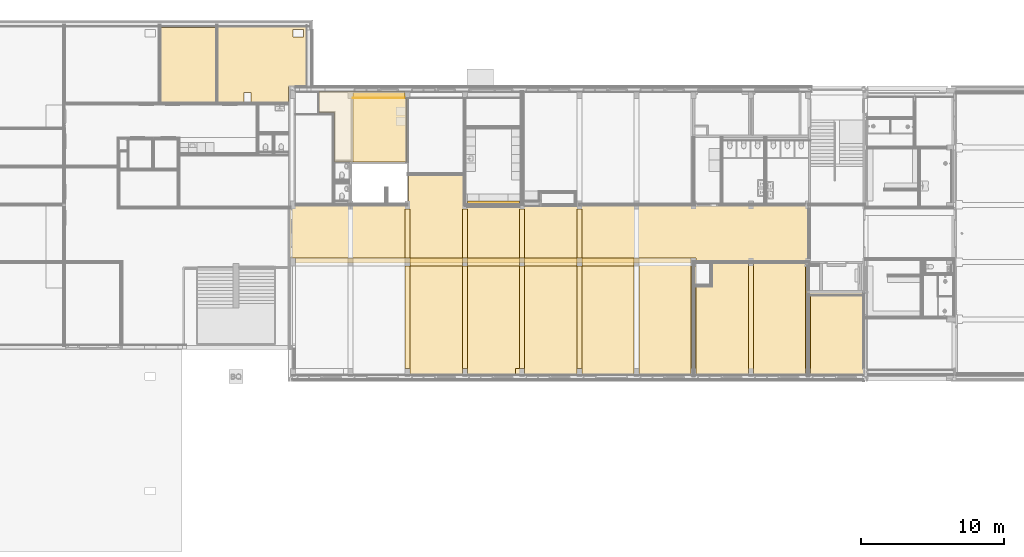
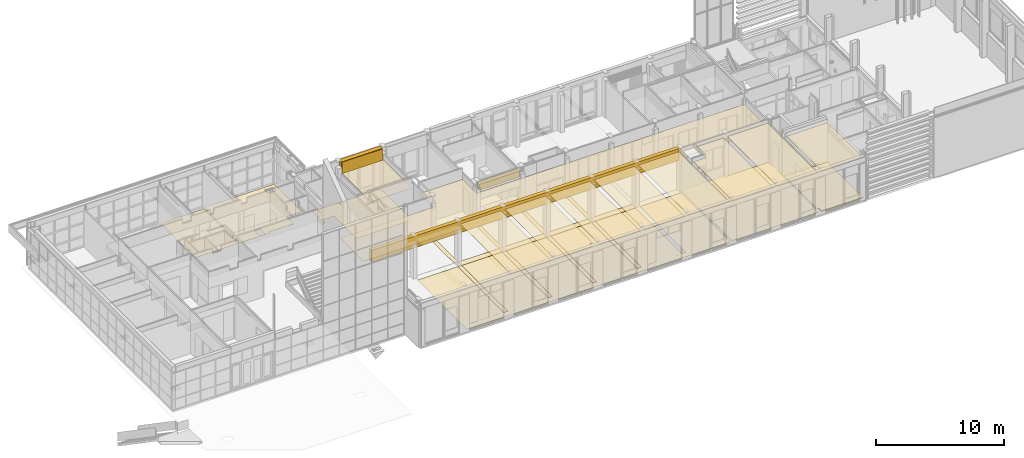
# One storey, part 87 of 109: 33 coverings, 1 opening.
"""IFC2X3 building model written with IfcOpenShell, lengths in millimetres."""

from ifc_helpers import new_model, entity, si_unit, converted_unit, derived_unit, money_unit, direction, frame, origin_with_axes, place, context, subcontext, project, spatial, faceted_brep, material, type_object, element, save


model = new_model("IFC2X3")

# Units and contexts
model_context = context("Model", 3, precision=0.01, world=origin_with_axes(), true_north=direction((0.0, 1.0)))
body_context = subcontext(model_context, "Body", "Model", "MODEL_VIEW")
ifc_project = project(units=[si_unit("LENGTHUNIT", "METRE", prefix="MILLI"), si_unit("AREAUNIT", "SQUARE_METRE"), si_unit("VOLUMEUNIT", "CUBIC_METRE"), converted_unit("PLANEANGLEUNIT", "DEGREE", entity("IfcPlaneAngleMeasure", 0.0174532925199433), si_unit("PLANEANGLEUNIT", "RADIAN"), dimensions=[0, 0, 0, 0, 0, 0, 0]), money_unit("EUR"), converted_unit("TIMEUNIT", "Year", entity("IfcTimeMeasure", 31557600.0), si_unit("TIMEUNIT", "SECOND"), dimensions=[0, 0, 1, 0, 0, 0, 0]), si_unit("MASSUNIT", "GRAM", prefix="KILO"), si_unit("THERMODYNAMICTEMPERATUREUNIT", "DEGREE_CELSIUS"), si_unit("LUMINOUSINTENSITYUNIT", "LUMEN"), si_unit("ENERGYUNIT", "JOULE", prefix="MEGA"), derived_unit("THERMALCONDUCTANCEUNIT", [(si_unit("POWERUNIT", "WATT"), 1), (si_unit("LENGTHUNIT", "METRE"), -1), (si_unit("THERMODYNAMICTEMPERATUREUNIT", "KELVIN"), -1)]), derived_unit("SPECIFICHEATCAPACITYUNIT", [(si_unit("ENERGYUNIT", "JOULE"), 1), (si_unit("MASSUNIT", "GRAM", prefix="KILO"), -1), (si_unit("THERMODYNAMICTEMPERATUREUNIT", "KELVIN"), -1)]), derived_unit("MASSDENSITYUNIT", [(si_unit("MASSUNIT", "GRAM", prefix="KILO"), 1), (si_unit("VOLUMEUNIT", "CUBIC_METRE"), -1)])], contexts=[model_context])

# Site, building, storey
site_placement = place(None, origin_with_axes())
site = spatial("IfcSite", under=ifc_project, at=site_placement, Name="<site naam>", CompositionType="ELEMENT")
building_placement = place(site_placement, origin_with_axes())
building = spatial("IfcBuilding", under=site, at=building_placement, Name="<Naam gebouw>", CompositionType="ELEMENT")
storey_placement = place(building_placement, origin_with_axes())
storey = spatial("IfcBuildingStorey", under=building, at=storey_placement, Name="00 Begane grond", CompositionType="ELEMENT", Elevation=0.0)

# Coverings
ifc_material_1 = material(Name="systeemplafond 600*600 kleur wit")
covering_type_1 = type_object("IfcCoveringType", Name="PA-01a 40", PredefinedType="CEILING")
covering_1_placement = place(storey_placement, frame((40175.00000000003, 100.9771509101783, 3700.0), z_axis=(0.0, 0.0, 1.0), x_axis=(1.0, 0.0, 0.0)))
element("IfcCovering", 1, at=covering_1_placement, inside=storey, type_object=covering_type_1, material=ifc_material_1, Name="45_Vloer_PA-01a", PredefinedType="CEILING", context=body_context, shape_type="Brep", body=[
    faceted_brep([(0.0, 6174.022877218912, 40.00000000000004), (0.0, 8.522849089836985, 40.00000000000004), (3649.999990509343, 8.52284908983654, 40.00000000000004), (3649.999990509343, 7824.022931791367, 40.00000000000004), (1133.999884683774, 7824.022931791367, 40.00000000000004), (1133.999884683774, 6174.022877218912, 40.00000000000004), (0.0, 6174.022877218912, 0.0), (0.0, 8.522849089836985, 0.0), (3649.999990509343, 8.52284908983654, 0.0), (3649.999990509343, 7824.022931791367, 0.0), (1133.999884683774, 7824.022931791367, 0.0), (1133.999884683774, 6174.022877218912, 0.0)], [[[0, 1, 2, 3, 4, 5]], [[6, 7, 1, 0]], [[7, 8, 2, 1]], [[3, 2, 8, 9]], [[4, 3, 9, 10]], [[5, 4, 10, 11]], [[0, 5, 11, 6]], [[9, 8, 7, 6, 11, 10]]]),
])
covering_2_placement = place(storey_placement, frame((16175.00000000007, 14985.5355143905, 3000.0), z_axis=(0.0, 0.0, 1.0), x_axis=(1.0, 0.0, 0.0)))
element("IfcCovering", 2, at=covering_2_placement, inside=storey, type_object=covering_type_1, material=ifc_material_1, Name="45_Vloer_PA-01a", PredefinedType="CEILING", context=body_context, shape_type="Brep", body=[
    faceted_brep([(-2.67471023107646e-06, -0.02038554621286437, 40.00000000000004), (3737.499999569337, -0.5108825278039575, 40.00000000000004), (3737.499999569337, 4464.455516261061, 40.00000000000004), (0.585738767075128, 4464.24925357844, 40.00000000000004), (-2.67471023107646e-06, -0.02038554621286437, 0.0), (3737.499999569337, -0.5108825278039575, 0.0), (3737.499999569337, 4464.455516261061, 0.0), (0.585738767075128, 4464.24925357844, 0.0)], [[[0, 1, 2, 3]], [[4, 5, 1, 0]], [[5, 6, 2, 1]], [[3, 2, 6, 7]], [[7, 4, 0, 3]], [[7, 6, 5, 4]]]),
])
covering_3_placement = place(storey_placement, frame((44175.0000465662, 7925.000082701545, 3700.0), z_axis=(0.0, 0.0, 1.0), x_axis=(1.0, 0.0, 0.0)))
element("IfcCovering", 3, at=covering_3_placement, inside=storey, type_object=covering_type_1, material=ifc_material_1, Name="45_Vloer_PA-01a", PredefinedType="CEILING", context=body_context, shape_type="Brep", body=[
    faceted_brep([(0.0, 0.0, 40.00000000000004), (0.0, -7815.50008270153, 40.00000000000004), (3649.999953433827, -7815.50008270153, 40.00000000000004), (3649.999953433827, 0.0, 40.00000000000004), (0.0, 0.0, 0.0), (0.0, -7815.50008270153, 0.0), (3649.999953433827, -7815.50008270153, 0.0), (3649.999953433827, 0.0, 0.0)], [[[0, 1, 2, 3]], [[4, 5, 1, 0]], [[5, 6, 2, 1]], [[3, 2, 6, 7]], [[0, 3, 7, 4]], [[7, 6, 5, 4]]]),
])
ifc_material_2 = material(Name="systeemplafond 600*600")
covering_type_2 = type_object("IfcCoveringType", Name="PA-01c 40", PredefinedType="CEILING")
covering_4_placement = place(storey_placement, frame((11665.00000000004, 8275.000000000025, 3000.0), z_axis=(0.0, 0.0, 1.0), x_axis=(1.0, 0.0, 0.0)))
element("IfcCovering", 4, at=covering_4_placement, inside=storey, type_object=covering_type_2, material=ifc_material_2, Name="45_Vloer_PA-01c", PredefinedType="CEILING", context=body_context, shape_type="Brep", body=[
    faceted_brep([(17647.36879634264, 3627.170365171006, 0.0), (17634.86879634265, 3627.170365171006, 0.0), (17634.86879634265, 3627.170365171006, 40.00000000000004), (17647.36879634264, 3627.170365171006, 40.00000000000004), (16510.0, 3647.072120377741, 0.0), (16510.0, 3627.170365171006, 0.0), (17647.36879634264, 3614.670365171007, 0.0), (17659.86879634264, 3614.670365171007, 0.0), (17659.86879634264, 3627.170365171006, 0.0), (20134.38242510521, 3627.170365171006, 0.0), (20134.38242510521, 3639.670365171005, 0.0), (20034.38242510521, 3639.670365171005, 0.0), (20034.38242510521, 3647.072120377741, 0.0), (28159.86180102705, 3647.072120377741, 0.0), (28159.86180102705, 3653.530128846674, 0.0), (36370.99999999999, 3653.530128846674, 0.0), (36370.99999999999, 3449.999999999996, 0.0), (36347.5, 3449.999999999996, 0.0), (36347.5, 0.0, 0.0), (36370.99999999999, 0.0, 0.0), (36370.99999999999, -200.0000000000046, 0.0), (28510.0, -200.0000000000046, 0.0), (28510.0, 0.0, 0.0), (0.0, 0.0, 0.0), (0.0, 3651.357650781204, 0.0), (8384.999999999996, 3651.357650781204, 0.0), (8384.999999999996, 5803.803606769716, 0.0), (12260.0, 5803.803606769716, 0.0), (12260.0, 3647.072120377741, 0.0), (12334.99999999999, 3647.072120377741, 0.0), (12334.99999999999, 3627.170365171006, 0.0), (16160.0, 3627.170365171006, 0.0), (16160.0, 3647.072120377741, 0.0), (16510.0, 3627.170365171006, 40.00000000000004), (16510.0, 3647.072120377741, 40.00000000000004), (16160.0, 3647.072120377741, 40.00000000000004), (16160.0, 3627.170365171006, 40.00000000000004), (12334.99999999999, 3627.170365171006, 40.00000000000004), (12334.99999999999, 3647.072120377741, 40.00000000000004), (12260.0, 3647.072120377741, 40.00000000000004), (12260.0, 5803.803606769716, 40.00000000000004), (8384.999999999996, 5803.803606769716, 40.00000000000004), (8384.999999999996, 3651.357650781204, 40.00000000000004), (0.0, 3651.357650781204, 40.00000000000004), (0.0, 0.0, 40.00000000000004), (28510.0, 0.0, 40.00000000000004), (28510.0, -200.0000000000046, 40.00000000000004), (36370.99999999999, -200.0000000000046, 40.00000000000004), (36370.99999999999, 0.0, 40.00000000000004), (36347.5, 0.0, 40.00000000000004), (36347.5, 3449.999999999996, 40.00000000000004), (36370.99999999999, 3449.999999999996, 40.00000000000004), (36370.99999999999, 3653.530128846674, 40.00000000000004), (28159.86180102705, 3653.530128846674, 40.00000000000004), (28159.86180102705, 3647.072120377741, 40.00000000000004), (20034.38242510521, 3647.072120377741, 40.00000000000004), (20034.38242510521, 3639.670365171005, 40.00000000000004), (20134.38242510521, 3639.670365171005, 40.00000000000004), (20134.38242510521, 3627.170365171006, 40.00000000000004), (17659.86879634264, 3627.170365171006, 40.00000000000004), (17659.86879634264, 3614.670365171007, 40.00000000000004), (17647.36879634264, 3614.670365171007, 40.00000000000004)], [[[0, 1, 2, 3]], [[4, 5, 1, 0, 6, 7, 8, 9, 10, 11, 12, 13, 14, 15, 16, 17, 18, 19, 20, 21, 22, 23, 24, 25, 26, 27, 28, 29, 30, 31, 32]], [[5, 33, 2, 1]], [[2, 33, 34, 35, 36, 37, 38, 39, 40, 41, 42, 43, 44, 45, 46, 47, 48, 49, 50, 51, 52, 53, 54, 55, 56, 57, 58, 59, 60, 61, 3]], [[6, 0, 3, 61]], [[34, 33, 5, 4]], [[6, 61, 60, 7]], [[60, 59, 8, 7]], [[8, 59, 58, 9]], [[9, 58, 57, 10]], [[10, 57, 56, 11]], [[12, 11, 56, 55]], [[13, 12, 55, 54]], [[54, 53, 14, 13]], [[53, 52, 15, 14]], [[52, 51, 16, 15]], [[16, 51, 50, 17]], [[17, 50, 49, 18]], [[19, 18, 49, 48]], [[20, 19, 48, 47]], [[47, 46, 21, 20]], [[46, 45, 22, 21]], [[45, 44, 23, 22]], [[44, 43, 24, 23]], [[43, 42, 25, 24]], [[42, 41, 26, 25]], [[41, 40, 27, 26]], [[40, 39, 28, 27]], [[39, 38, 29, 28]], [[38, 37, 30, 29]], [[30, 37, 36, 31]], [[35, 32, 31, 36]], [[35, 34, 4, 32]]]),
])
ifc_material_3 = material(Name="tapijttegel")
covering_type_3 = type_object("IfcCoveringType", Name="VA-05 3", PredefinedType="CEILING")
covering_5_placement = place(storey_placement, frame((40175.00000000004, 7725.000000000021, 0.0), z_axis=(0.0, 0.0, 1.0), x_axis=(1.0, 0.0, 0.0)))
element("IfcCovering", 5, at=covering_5_placement, inside=storey, type_object=covering_type_3, material=ifc_material_3, Name="43_Vloer_VA-05", PredefinedType="CEILING", context=body_context, shape_type="Brep", body=[
    faceted_brep([(0.0, 0.0, 3.0), (0.0, 0.0, 0.0), (-99.99997328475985, 0.0, 0.0), (-99.99997328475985, 0.0, 3.0), (0.0, 350.0000257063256, 3.0), (0.0, 350.0000257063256, 0.0), (3999.554517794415, 350.0000257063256, 0.0), (3999.554517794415, 199.999946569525, 0.0), (7649.99998284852, 199.999946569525, 0.0), (7649.99998284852, 0.0, 0.0), (7749.99995613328, 0.0, 0.0), (7749.99995613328, -7175.000050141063, 0.0), (7649.99998284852, -7175.000050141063, 0.0), (7649.99998284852, -7650.016910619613, 0.0), (-99.99997328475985, -7650.016910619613, 0.0), (-99.99997328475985, -7650.016910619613, 3.0), (7649.99998284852, -7650.016910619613, 3.0), (7649.99998284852, -7175.000050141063, 3.0), (7749.99995613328, -7175.000050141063, 3.0), (7749.99995613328, 0.0, 3.0), (7649.99998284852, 0.0, 3.0), (7649.99998284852, 199.999946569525, 3.0), (3999.554517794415, 199.999946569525, 3.0), (3999.554517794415, 350.0000257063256, 3.0)], [[[0, 1, 2, 3]], [[4, 5, 1, 0]], [[2, 1, 5, 6, 7, 8, 9, 10, 11, 12, 13, 14]], [[3, 2, 14, 15]], [[4, 0, 3, 15, 16, 17, 18, 19, 20, 21, 22, 23]], [[23, 6, 5, 4]], [[22, 7, 6, 23]], [[21, 8, 7, 22]], [[20, 9, 8, 21]], [[19, 10, 9, 20]], [[18, 11, 10, 19]], [[17, 12, 11, 18]], [[16, 13, 12, 17]], [[15, 14, 13, 16]]]),
])
covering_6_placement = place(storey_placement, frame((48075.00000000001, 34.00000030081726, 0.0), z_axis=(0.0, 0.0, 1.0), x_axis=(1.0, 0.0, 0.0)))
element("IfcCovering", 6, at=covering_6_placement, inside=storey, type_object=covering_type_3, material=ifc_material_3, Name="43_Vloer_VA-05", PredefinedType="CEILING", context=body_context, shape_type="Brep", body=[
    faceted_brep([(0.0, 0.0, 3.0), (0.0, 0.0, 0.0), (3790.00000000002, 0.0, 0.0), (3790.00000000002, 0.0, 3.0), (0.0, 5839.36667601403, 3.0), (0.0, 5839.36667601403, 0.0), (3790.00000000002, 5839.36667601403, 0.0), (3790.00000000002, 5839.36667601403, 3.0)], [[[0, 1, 2, 3]], [[4, 5, 1, 0]], [[2, 1, 5, 6]], [[3, 2, 6, 7]], [[4, 0, 3, 7]], [[7, 6, 5, 4]]]),
])

# Covering, opening
covering_7_placement = place(storey_placement, frame((6729.166666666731, 24596.49778138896, 0.0), z_axis=(0.0, 0.0, 1.0), x_axis=(1.0, 0.0, 0.0)))
covering_7 = element("IfcCovering", 7, at=covering_7_placement, inside=storey, type_object=covering_type_3, material=ifc_material_3, Name="43_Vloer_VA-05", PredefinedType="CEILING", context=body_context, shape_type="Brep", body=[
    faceted_brep([(0.0, 0.0, 3.0), (0.0, 0.0, 0.0), (0.0, -5596.497781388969, 0.0), (0.0, -5596.497781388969, 3.0), (6327.35548143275, 0.0, 3.0), (6327.35548143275, 0.0, 0.0), (6327.35548143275, -4335.916966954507, 0.0), (4935.833403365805, -4335.916966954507, 0.0), (4935.833403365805, -5446.497741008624, 0.0), (2717.814092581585, -5446.497741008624, 0.0), (2717.814092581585, -5596.497781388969, 0.0), (5245.833354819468, -346.4977823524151, 0.0), (5245.833354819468, -846.4978226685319, 0.0), (5995.833273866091, -846.4978226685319, 0.0), (5995.833273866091, -346.4977823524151, 0.0), (2717.814092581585, -5596.497781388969, 3.0), (2717.814092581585, -5446.497741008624, 3.0), (4935.833403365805, -5446.497741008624, 3.0), (4935.833403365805, -4335.916966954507, 3.0), (6327.35548143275, -4335.916966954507, 3.0), (5995.833273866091, -846.4978226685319, 3.0), (5245.833354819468, -846.4978226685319, 3.0), (5245.833354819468, -346.4977823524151, 3.0), (5995.833273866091, -346.4977823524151, 3.0)], [[[0, 1, 2, 3]], [[4, 5, 1, 0]], [[2, 1, 5, 6, 7, 8, 9, 10], [11, 12, 13, 14]], [[3, 2, 10, 15]], [[4, 0, 3, 15, 16, 17, 18, 19], [20, 21, 22, 23]], [[19, 6, 5, 4]], [[18, 7, 6, 19]], [[17, 8, 7, 18]], [[16, 9, 8, 17]], [[15, 10, 9, 16]], [[21, 12, 11, 22]], [[20, 13, 12, 21]], [[23, 14, 13, 20]], [[22, 11, 14, 23]]]),
])
opening_placement = place(covering_7_placement, frame((-6729.166666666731, -24596.49778138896, 0.0), z_axis=(0.0, 0.0, 1.0), x_axis=(1.0, 0.0, 0.0)))
element("IfcOpeningElement", 8, at=opening_placement, cuts=covering_7, Name="43_vloerluik_", context=body_context, shape_type="Brep", body=[
    faceted_brep([(8550.000000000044, 19861.90362503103, -3.0), (8550.000000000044, 19061.90362503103, -3.0), (8550.000000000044, 19061.90362503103, 6.0), (8550.000000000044, 19861.90362503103, 6.0), (9050.000000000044, 19861.90362503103, -3.0), (9050.000000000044, 19061.90362503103, -3.0), (9050.000000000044, 19061.90362503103, 6.0), (9050.000000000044, 19861.90362503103, 6.0)], [[[0, 1, 2, 3]], [[0, 4, 5, 1]], [[1, 5, 6, 2]], [[3, 2, 6, 7]], [[4, 0, 3, 7]], [[5, 4, 7, 6]]]),
])

# Coverings
covering_8_placement = place(storey_placement, frame((2729.166666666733, 23749.99996510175, 0.0), z_axis=(0.0, 0.0, 1.0), x_axis=(1.0, 0.0, 0.0)))
element("IfcCovering", 9, at=covering_8_placement, inside=storey, type_object=covering_type_3, material=ifc_material_3, Name="43_Vloer_VA-05", PredefinedType="CEILING", context=body_context, shape_type="Brep", body=[
    faceted_brep([(0.0, -4749.999972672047, 3.0), (0.0, -4749.999972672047, 0.0), (3875.000018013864, -4750.005212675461, 0.0), (3875.000018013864, -4750.005212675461, 3.0), (0.0, 660.000034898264, 3.0), (0.0, 660.000034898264, 0.0), (3875.000018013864, 660.000034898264, 0.0), (3875.000018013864, 660.000034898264, 3.0)], [[[0, 1, 2, 3]], [[4, 5, 1, 0]], [[1, 5, 6, 2]], [[3, 2, 6, 7]], [[4, 0, 3, 7]], [[7, 6, 5, 4]]]),
])
covering_9_placement = place(storey_placement, frame((47989.99998198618, 5210.999995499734, 0.0), z_axis=(0.0, 0.0, 1.0), x_axis=(1.0, 0.0, 0.0)))
element("IfcCovering", 10, at=covering_9_placement, inside=storey, type_object=covering_type_3, material=ifc_material_3, Name="43_Vloer_VA-05", PredefinedType="CEILING", context=body_context, shape_type="Brep", body=[
    faceted_brep([(0.0, -4661.000036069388, 3.0), (0.0, -4661.000036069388, 0.0), (185.0000227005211, -4661.000036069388, 0.0), (185.0000227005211, -4661.000036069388, 3.0), (0.0, 430.000045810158, 3.0), (0.0, 430.000045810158, 0.0), (3875.000004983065, 430.000045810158, 0.0), (3875.000004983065, -5095.002843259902, 0.0), (185.0000227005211, -5094.997869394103, 0.0), (185.0000227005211, -5094.997869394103, 3.0), (3875.000004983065, -5095.002843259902, 3.0), (3875.000004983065, 430.000045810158, 3.0)], [[[0, 1, 2, 3]], [[4, 5, 1, 0]], [[1, 5, 6, 7, 8, 2]], [[3, 2, 8, 9]], [[4, 0, 3, 9, 10, 11]], [[11, 6, 5, 4]], [[10, 7, 6, 11]], [[9, 8, 7, 10]]]),
])
ifc_material_4 = material(Name="Vinyl type 01b")
covering_type_4 = type_object("IfcCoveringType", Name="VA-01b 3", PredefinedType="CEILING")
covering_10_placement = place(storey_placement, frame((16175.00000000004, -5.999999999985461, 0.0), z_axis=(0.0, 0.0, 1.0), x_axis=(1.0, 0.0, 0.0)))
element("IfcCovering", 11, at=covering_10_placement, inside=storey, type_object=covering_type_4, material=ifc_material_4, Name="43_Vloer_VA-01b", PredefinedType="CEILING", context=body_context, shape_type="Brep", body=[
    faceted_brep([(0.0, 0.0, 3.0), (0.0, 0.0, 0.0), (23749.99999999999, 0.0, 0.0), (23749.99999999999, 0.0, 3.0), (0.0, 7731.00000000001, 3.0), (0.0, 7731.00000000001, 0.0), (3649.999999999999, 7731.00000000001, 0.0), (3649.999999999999, 556.0000000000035, 0.0), (3999.999999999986, 556.0000000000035, 0.0), (3999.999999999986, 7731.00000000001, 0.0), (7649.999999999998, 7731.00000000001, 0.0), (7649.999999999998, 556.0000000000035, 0.0), (7999.999999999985, 556.0000000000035, 0.0), (7999.999999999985, 7731.000000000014, 0.0), (11650.0, 7731.00000000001, 0.0), (11650.0, 555.9999999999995, 0.0), (12000.0, 555.9999999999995, 0.0), (12000.0, 7731.000000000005, 0.0), (15649.99999999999, 7731.000000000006, 0.0), (15649.99999999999, 555.9999999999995, 0.0), (15999.99999999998, 555.9999999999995, 0.0), (15999.99999999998, 7731.000000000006, 0.0), (19650.0, 7731.000000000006, 0.0), (19650.0, 555.9999999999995, 0.0), (19999.99999999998, 555.9999999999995, 0.0), (19999.99999999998, 7728.470927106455, 0.0), (23749.99999999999, 7728.470927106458, 0.0), (23749.99999999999, 7728.470927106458, 3.0), (19999.99999999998, 7728.470927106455, 3.0), (19999.99999999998, 555.9999999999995, 3.0), (19650.0, 555.9999999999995, 3.0), (19650.0, 7731.000000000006, 3.0), (15999.99999999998, 7731.000000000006, 3.0), (15999.99999999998, 555.9999999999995, 3.0), (15649.99999999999, 555.9999999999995, 3.0), (15649.99999999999, 7731.000000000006, 3.0), (12000.0, 7731.000000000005, 3.0), (12000.0, 555.9999999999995, 3.0), (11650.0, 555.9999999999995, 3.0), (11650.0, 7731.00000000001, 3.0), (7999.999999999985, 7731.000000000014, 3.0), (7999.999999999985, 556.0000000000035, 3.0), (7649.999999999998, 556.0000000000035, 3.0), (7649.999999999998, 7731.00000000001, 3.0), (3999.999999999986, 7731.00000000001, 3.0), (3999.999999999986, 556.0000000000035, 3.0), (3649.999999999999, 556.0000000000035, 3.0), (3649.999999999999, 7731.00000000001, 3.0)], [[[0, 1, 2, 3]], [[4, 5, 1, 0]], [[2, 1, 5, 6, 7, 8, 9, 10, 11, 12, 13, 14, 15, 16, 17, 18, 19, 20, 21, 22, 23, 24, 25, 26]], [[3, 2, 26, 27]], [[4, 0, 3, 27, 28, 29, 30, 31, 32, 33, 34, 35, 36, 37, 38, 39, 40, 41, 42, 43, 44, 45, 46, 47]], [[47, 6, 5, 4]], [[46, 7, 6, 47]], [[45, 8, 7, 46]], [[44, 9, 8, 45]], [[43, 10, 9, 44]], [[42, 11, 10, 43]], [[41, 12, 11, 42]], [[40, 13, 12, 41]], [[39, 14, 13, 40]], [[38, 15, 14, 39]], [[37, 16, 15, 38]], [[36, 17, 16, 37]], [[35, 18, 17, 36]], [[34, 19, 18, 35]], [[33, 20, 19, 34]], [[32, 21, 20, 33]], [[31, 22, 21, 32]], [[30, 23, 22, 31]], [[29, 24, 23, 30]], [[28, 25, 24, 29]], [[27, 26, 25, 28]]]),
])
ifc_material_5 = material(Name="systeemplafond 600*600 kleur ntb.")
covering_type_5 = type_object("IfcCoveringType", Name="PA-01d 40", PredefinedType="CEILING")
covering_11_placement = place(storey_placement, frame((48175.00000000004, 5641.000000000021, 3725.000001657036), z_axis=(0.0, 0.0, 1.0), x_axis=(1.0, 0.0, 0.0)))
element("IfcCovering", 12, at=covering_11_placement, inside=storey, type_object=covering_type_5, material=ifc_material_5, Name="45_Vloer_PA-01d", PredefinedType="CEILING", context=body_context, shape_type="Brep", body=[
    faceted_brep([(0.0, 0.0, 40.00000000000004), (0.0, -5531.500000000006, 40.00000000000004), (3689.999957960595, -5531.500000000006, 40.00000000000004), (3689.999957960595, 0.0, 40.00000000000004), (0.0, 0.0, 0.0), (0.0, -5531.500000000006, 0.0), (3689.999957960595, -5531.500000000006, 0.0), (3689.999957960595, 0.0, 0.0)], [[[0, 1, 2, 3]], [[4, 5, 1, 0]], [[5, 6, 2, 1]], [[3, 2, 6, 7]], [[0, 3, 7, 4]], [[7, 6, 5, 4]]]),
])
ifc_material_6 = material(Name="Vinyl type 01a")
covering_type_6 = type_object("IfcCoveringType", Name="VA-01a 3", PredefinedType="CEILING")
covering_12_placement = place(storey_placement, frame((13787.50008957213, 18460.59605938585, 0.0), z_axis=(0.0, 0.0, 1.0), x_axis=(1.0, 0.0, 0.0)))
element("IfcCovering", 13, at=covering_12_placement, inside=storey, type_object=covering_type_6, material=ifc_material_6, Name="43_Vloer_VA-01a", PredefinedType="CEILING", context=body_context, shape_type="Brep", body=[
    faceted_brep([(0.0, 0.0, 3.0), (0.0, 0.0, 0.0), (1117.454959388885, 0.0, 0.0), (1117.454959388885, 0.0, 3.0), (0.0, 1464.343494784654, 3.0), (0.0, 1464.343494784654, 0.0), (2037.499844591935, 1464.355658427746, 0.0), (2037.499844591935, 989.4038072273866, 0.0), (2387.499894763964, 989.4038072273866, 0.0), (2387.499894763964, 1464.355658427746, 0.0), (2037.499844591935, 1464.355658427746, 0.0), (6037.499790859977, 1464.379436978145, 0.0), (6037.499790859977, 989.4038072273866, 0.0), (6137.499935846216, 989.4038072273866, 0.0), (6137.499935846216, -3475.060552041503, 0.0), (1117.454959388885, -3475.060552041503, 0.0), (1117.454959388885, -3475.060552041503, 3.0), (6137.499935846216, -3475.060552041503, 3.0), (6137.499935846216, 989.4038072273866, 3.0), (6037.499790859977, 989.4038072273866, 3.0), (6037.499790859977, 1464.379436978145, 3.0), (2037.499844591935, 1464.355658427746, 3.0), (2387.499894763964, 1464.355658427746, 3.0), (2387.499894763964, 989.4038072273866, 3.0), (2037.499844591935, 989.4038072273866, 3.0), (2037.499844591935, 1464.355658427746, 3.0)], [[[0, 1, 2, 3]], [[4, 5, 1, 0]], [[2, 1, 5, 6, 7, 8, 9, 10, 11, 12, 13, 14, 15]], [[3, 2, 15, 16]], [[4, 0, 3, 16, 17, 18, 19, 20, 21, 22, 23, 24, 25]], [[25, 6, 5, 4]], [[24, 7, 6, 25]], [[23, 8, 7, 24]], [[22, 9, 8, 23]], [[21, 10, 9, 22]], [[20, 11, 10, 21]], [[19, 12, 11, 20]], [[18, 13, 12, 19]], [[17, 14, 13, 18]], [[16, 15, 14, 17]]]),
])
ifc_material_7 = material(Name="koven gips")
covering_type_7 = type_object("IfcCoveringType", Name="koven gips 1100", PredefinedType="CEILING")
covering_13_placement = place(storey_placement, frame((39825.00000000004, 8275.000000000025, 3000.0), z_axis=(0.0, 0.0, 1.0), x_axis=(1.0, 0.0, 0.0)))
element("IfcCovering", 14, at=covering_13_placement, inside=storey, type_object=covering_type_7, material=ifc_material_7, Name="45_Vloer_koven", PredefinedType="CEILING", context=body_context, shape_type="Brep", body=[
    faceted_brep([(0.0, 0.0, 1100.0), (0.0, 0.0, 0.0), (-27650.0, 0.0, 0.0), (-27650.0, 0.0, 1100.0), (0.0, -349.9999999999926, 1100.0), (0.0, -349.9999999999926, 0.0), (-27649.75575557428, -349.9999999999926, 0.0), (-27649.75575557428, -349.9999999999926, 1100.0)], [[[0, 1, 2, 3]], [[4, 5, 1, 0]], [[2, 1, 5, 6]], [[3, 2, 6, 7]], [[4, 0, 3, 7]], [[7, 6, 5, 4]]]),
])
ifc_material_8 = material(Name="Gipsplafond Rigitone")
covering_type_8 = type_object("IfcCoveringType", Name="PA-03 25", PredefinedType="CEILING")
covering_14_placement = place(storey_placement, frame((36175.00010320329, 549.9999792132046, 3800.0), z_axis=(0.0, 0.0, 1.0), x_axis=(1.0, 0.0, 0.0)))
element("IfcCovering", 15, at=covering_14_placement, inside=storey, type_object=covering_type_8, material=ifc_material_8, Name="45_Vloer_PA-03", PredefinedType="CEILING", context=body_context, shape_type="Brep", body=[
    faceted_brep([(0.0, -475.0168707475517, 24.99999999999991), (0.0, -475.0168707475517, 0.0), (3649.999858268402, -475.0168707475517, 0.0), (3649.999858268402, -475.0168707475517, 24.99999999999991), (0.0, 7375.00012704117, 24.99999999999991), (0.0, 7375.00012704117, 0.0), (3649.999741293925, 7375.00012704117, 0.0), (3649.999741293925, 7375.00012704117, 24.99999999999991)], [[[0, 1, 2, 3]], [[4, 5, 1, 0]], [[1, 5, 6, 2]], [[3, 2, 6, 7]], [[4, 0, 3, 7]], [[7, 6, 5, 4]]]),
])
covering_15_placement = place(storey_placement, frame((35824.99994144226, 7925.000274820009, 3800.0), z_axis=(0.0, 0.0, 1.0), x_axis=(1.0, 0.0, 0.0)))
element("IfcCovering", 16, at=covering_15_placement, inside=storey, type_object=covering_type_8, material=ifc_material_8, Name="45_Vloer_PA-03", PredefinedType="CEILING", context=body_context, shape_type="Brep", body=[
    faceted_brep([(0.0, 0.0, 24.99999999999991), (0.0, 0.0, 0.0), (-3649.9996912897, 0.0, 0.0), (-3649.9996912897, 0.0, 24.99999999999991), (0.0, -7850.017262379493, 24.99999999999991), (0.0, -7850.017262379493, 0.0), (-3649.9996912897, -7850.017262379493, 0.0), (-3649.9996912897, -7850.017262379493, 24.99999999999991)], [[[0, 1, 2, 3]], [[4, 5, 1, 0]], [[2, 1, 5, 6]], [[3, 2, 6, 7]], [[0, 3, 7, 4]], [[7, 6, 5, 4]]]),
])
covering_16_placement = place(storey_placement, frame((31825.00014195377, 7924.999951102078, 3800.0), z_axis=(0.0, 0.0, 1.0), x_axis=(1.0, 0.0, 0.0)))
element("IfcCovering", 17, at=covering_16_placement, inside=storey, type_object=covering_type_8, material=ifc_material_8, Name="45_Vloer_PA-03", PredefinedType="CEILING", context=body_context, shape_type="Brep", body=[
    faceted_brep([(0.0, 0.0, 24.99999999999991), (0.0, 0.0, 0.0), (-3650.000270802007, 0.0, 0.0), (-3650.000270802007, 0.0, 24.99999999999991), (0.0, -7850.016758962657, 24.99999999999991), (0.0, -7850.016758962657, 0.0), (-3650.000270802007, -7850.016758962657, 0.0), (-3650.000270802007, -7850.016758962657, 24.99999999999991)], [[[0, 1, 2, 3]], [[4, 5, 1, 0]], [[2, 1, 5, 6]], [[3, 2, 6, 7]], [[0, 3, 7, 4]], [[7, 6, 5, 4]]]),
])
covering_17_placement = place(storey_placement, frame((24175.00006589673, 549.999985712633, 3800.0), z_axis=(0.0, 0.0, 1.0), x_axis=(1.0, 0.0, 0.0)))
element("IfcCovering", 18, at=covering_17_placement, inside=storey, type_object=covering_type_8, material=ifc_material_8, Name="45_Vloer_PA-03", PredefinedType="CEILING", context=body_context, shape_type="Brep", body=[
    faceted_brep([(0.0, -433.9999857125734, 24.99999999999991), (0.0, -433.9999857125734, 0.0), (3350.019353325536, -433.9999857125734, 0.0), (3350.019353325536, -433.9999857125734, 24.99999999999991), (0.0, 7375.000085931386, 24.99999999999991), (0.0, 7375.000085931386, 0.0), (3649.999767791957, 7375.000085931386, 0.0), (3649.999767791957, 0.0, 0.0), (3350.019353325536, 0.0, 0.0), (3350.019353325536, 0.0, 24.99999999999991), (3649.999767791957, 0.0, 24.99999999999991), (3649.999767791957, 7375.000085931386, 24.99999999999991)], [[[0, 1, 2, 3]], [[4, 5, 1, 0]], [[1, 5, 6, 7, 8, 2]], [[3, 2, 8, 9]], [[4, 0, 3, 9, 10, 11]], [[11, 6, 5, 4]], [[10, 7, 6, 11]], [[9, 8, 7, 10]]]),
])
covering_18_placement = place(storey_placement, frame((20175.00002905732, 7925.000082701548, 3800.0), z_axis=(0.0, 0.0, 1.0), x_axis=(1.0, 0.0, 0.0)))
element("IfcCovering", 19, at=covering_18_placement, inside=storey, type_object=covering_type_8, material=ifc_material_8, Name="45_Vloer_PA-03", PredefinedType="CEILING", context=body_context, shape_type="Brep", body=[
    faceted_brep([(0.0, 0.0, 24.99999999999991), (0.0, 0.0, 0.0), (-0.0002466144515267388, -7850.016958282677, 0.0), (-0.0002466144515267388, -7850.016958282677, 24.99999999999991), (3650.000071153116, 0.0, 24.99999999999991), (3650.000071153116, 0.0, 0.0), (3650.000071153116, -7850.016958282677, 0.0), (3650.000071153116, -7850.016958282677, 24.99999999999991)], [[[0, 1, 2, 3]], [[4, 5, 1, 0]], [[1, 5, 6, 2]], [[3, 2, 6, 7]], [[4, 0, 3, 7]], [[7, 6, 5, 4]]]),
])
covering_type_9 = type_object("IfcCoveringType", Name="koven gips 565", PredefinedType="CEILING")
covering_19_placement = place(storey_placement, frame((27825.00000000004, 12275.00000000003, 3185.0), z_axis=(0.0, 0.0, 1.0), x_axis=(1.0, 0.0, 0.0)))
element("IfcCovering", 20, at=covering_19_placement, inside=storey, type_object=covering_type_9, material=ifc_material_7, Name="45_Vloer_koven", PredefinedType="CEILING", context=body_context, shape_type="Brep", body=[
    faceted_brep([(0.0, 0.0, 565.0), (0.0, 0.0, 0.0), (-3649.999999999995, 0.0, 0.0), (-3649.999999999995, 0.0, 565.0), (0.0, -349.9999815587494, 565.0), (0.0, -349.9999815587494, 0.0), (-3649.999999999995, -349.9999815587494, 0.0), (-3649.999999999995, -349.9999815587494, 565.0)], [[[0, 1, 2, 3]], [[4, 5, 1, 0]], [[2, 1, 5, 6]], [[3, 2, 6, 7]], [[4, 0, 3, 7]], [[7, 6, 5, 4]]]),
])
ifc_material_9 = material(Name="aftimmering/koven multiplex")
covering_type_10 = type_object("IfcCoveringType", Name="aftimmering/koven multiplex 545", PredefinedType="CEILING")
covering_20_placement = place(storey_placement, frame((16175.00000000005, 19883.99997785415, 3554.998688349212), z_axis=(0.0, 0.0, 1.0), x_axis=(1.0, 0.0, 0.0)))
element("IfcCovering", 21, at=covering_20_placement, inside=storey, type_object=covering_type_10, material=ifc_material_9, Name="45_Vloer_aftimmering/koven", PredefinedType="CEILING", context=body_context, shape_type="Brep", body=[
    faceted_brep([(0.0, 0.0, 545.0013116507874), (0.0, 0.0, 0.0), (0.0, -433.9999778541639, 0.0), (0.0, -433.9999778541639, 545.0013116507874), (3649.999999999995, 0.0, 545.0013116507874), (3649.999999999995, 0.0, 0.0), (3649.999999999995, -433.9999778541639, 0.0), (3649.999999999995, -433.9999778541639, 545.0013116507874)], [[[0, 1, 2, 3]], [[4, 5, 1, 0]], [[2, 1, 5, 6]], [[3, 2, 6, 7]], [[4, 0, 3, 7]], [[7, 6, 5, 4]]]),
])
covering_type_11 = type_object("IfcCoveringType", Name="aftimmering/koven multiplex 1100", PredefinedType="CEILING")
covering_21_placement = place(storey_placement, frame((19825.00000000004, 19499.99999617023, 3000.0), z_axis=(0.0, 0.0, 1.0), x_axis=(1.0, 0.0, 0.0)))
element("IfcCovering", 22, at=covering_21_placement, inside=storey, type_object=covering_type_11, material=ifc_material_9, Name="45_Vloer_aftimmering/koven", PredefinedType="CEILING", context=body_context, shape_type="Brep", body=[
    faceted_brep([(0.0, 0.0, 1100.0), (0.0, 0.0, 0.0), (-3649.999999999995, 0.0, 0.0), (-3649.999999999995, 0.0, 1100.0), (0.0, -49.99999617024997, 1100.0), (0.0, -49.99999617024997, 0.0), (-3649.999999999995, -49.99999617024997, 0.0), (-3649.999999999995, -49.99999617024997, 1100.0)], [[[0, 1, 2, 3]], [[4, 5, 1, 0]], [[2, 1, 5, 6]], [[3, 2, 6, 7]], [[4, 0, 3, 7]], [[7, 6, 5, 4]]]),
])
ifc_material_10 = material(Name="Vinyl type 01f")
covering_type_12 = type_object("IfcCoveringType", Name="VA-01f 3", PredefinedType="CEILING")
for number, where, z_axis, x_axis, name in (
    (23, (19825.00000000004, 8275.000000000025, 0.0), (0.0, 0.0, 1.0), (1.0, 0.0, 0.0), "43_Vloer_VA-01f"),
    (24, (23825.00000000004, 8275.000000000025, 0.0), (0.0, 0.0, 1.0), (1.0, 0.0, 0.0), "43_Vloer_VA-01f"),
    (25, (27825.00000000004, 8275.000000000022, 0.0), (0.0, 0.0, 1.0), (1.0, 0.0, 0.0), "43_Vloer_VA-01f"),
    (26, (31825.00000000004, 8275.000000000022, 0.0), (0.0, 0.0, 1.0), (1.0, 0.0, 0.0), "43_Vloer_VA-01f"),
):
    element("IfcCovering", number, at=place(storey_placement, frame(where, z_axis=z_axis, x_axis=x_axis)), inside=storey, type_object=covering_type_12, material=ifc_material_10, Name=name, PredefinedType="CEILING", context=body_context, shape_type="Brep", body=[
        faceted_brep([(0.0, 0.0, 3.0), (0.0, 0.0, 0.0), (350.0000000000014, 0.0, 0.0), (350.0000000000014, 0.0, 3.0), (0.0, 3449.999999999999, 3.0), (0.0, 3449.999999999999, 0.0), (350.0000000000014, 3449.999999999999, 0.0), (350.0000000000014, 3449.999999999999, 3.0)], [[[0, 1, 2, 3]], [[4, 5, 1, 0]], [[2, 1, 5, 6]], [[3, 2, 6, 7]], [[4, 0, 3, 7]], [[7, 6, 5, 4]]]),
    ])
for number, where, z_axis, x_axis, name in (
    (27, (31825.00000000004, 550.000000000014, 0.0), (0.0, 0.0, 1.0), (1.0, 0.0, 0.0), "43_Vloer_VA-01f"),
    (28, (23825.00000000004, 550.0000000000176, 0.0), (0.0, 0.0, 1.0), (1.0, 0.0, 0.0), "43_Vloer_VA-01f"),
    (29, (19825.00000000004, 550.0000000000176, 0.0), (0.0, 0.0, 1.0), (1.0, 0.0, 0.0), "43_Vloer_VA-01f"),
    (30, (27825.00000000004, 550.000000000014, 0.0), (0.0, 0.0, 1.0), (1.0, 0.0, 0.0), "43_Vloer_VA-01f"),
):
    element("IfcCovering", number, at=place(storey_placement, frame(where, z_axis=z_axis, x_axis=x_axis)), inside=storey, type_object=covering_type_12, material=ifc_material_10, Name=name, PredefinedType="CEILING", context=body_context, shape_type="Brep", body=[
        faceted_brep([(0.0, 0.0, 3.0), (0.0, 0.0, 0.0), (350.0000000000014, 0.0, 0.0), (350.0000000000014, 0.0, 3.0), (0.0, 7175.000000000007, 3.0), (0.0, 7175.000000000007, 0.0), (350.0000000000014, 7175.000000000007, 0.0), (350.0000000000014, 7175.000000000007, 3.0)], [[[0, 1, 2, 3]], [[4, 5, 1, 0]], [[2, 1, 5, 6]], [[3, 2, 6, 7]], [[4, 0, 3, 7]], [[7, 6, 5, 4]]]),
    ])
for number, where, z_axis, x_axis, name in (
    (31, (20175.00000000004, 7725.000000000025, 0.0), (0.0, 0.0, 1.0), (1.0, 0.0, 0.0), "43_Vloer_VA-01f"),
    (32, (28175.00000000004, 7725.000000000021, 0.0), (0.0, 0.0, 1.0), (1.0, 0.0, 0.0), "43_Vloer_VA-01f"),
    (33, (32175.00000000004, 7725.000000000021, 0.0), (0.0, 0.0, 1.0), (1.0, 0.0, 0.0), "43_Vloer_VA-01f"),
    (34, (24175.00000000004, 7725.000000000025, 0.0), (0.0, 0.0, 1.0), (1.0, 0.0, 0.0), "43_Vloer_VA-01f"),
):
    element("IfcCovering", number, at=place(storey_placement, frame(where, z_axis=z_axis, x_axis=x_axis)), inside=storey, type_object=covering_type_12, material=ifc_material_10, Name=name, PredefinedType="CEILING", context=body_context, shape_type="Brep", body=[
        faceted_brep([(0.0, 0.0, 3.0), (0.0, 0.0, 0.0), (3649.999999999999, 0.0, 0.0), (3649.999999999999, 0.0, 3.0), (0.0, 550.0000000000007, 3.0), (0.0, 550.0000000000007, 0.0), (3649.999999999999, 550.0000000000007, 0.0), (3649.999999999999, 550.0000000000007, 3.0)], [[[0, 1, 2, 3]], [[4, 5, 1, 0]], [[2, 1, 5, 6]], [[3, 2, 6, 7]], [[4, 0, 3, 7]], [[7, 6, 5, 4]]]),
    ])

save(model, "model.ifc")
